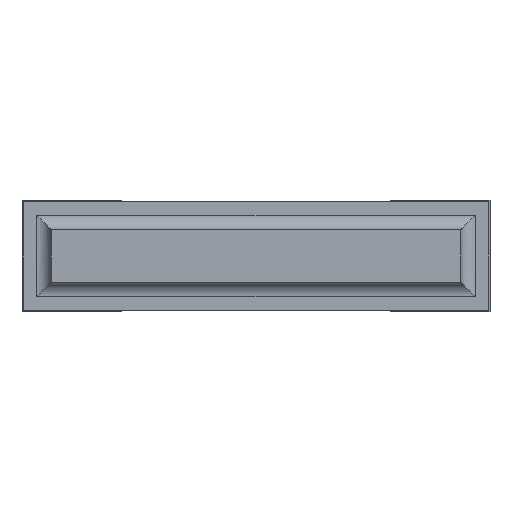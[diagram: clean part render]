
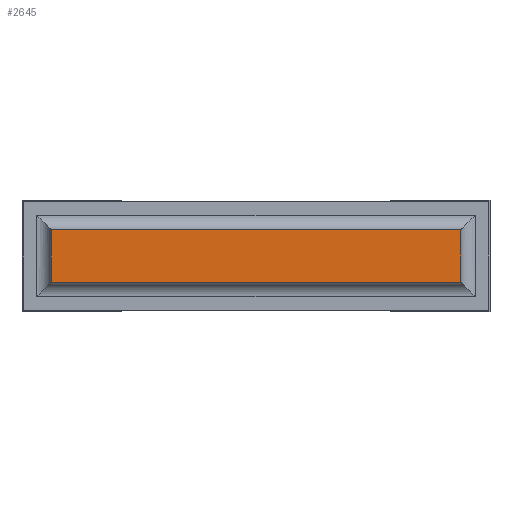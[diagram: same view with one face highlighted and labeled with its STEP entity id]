
A CAD part, front view. The second image highlights one B-rep face of the part: STEP entity #2645.
In plain terms, the highlighted planar face has unit normal (0, -1, 0).
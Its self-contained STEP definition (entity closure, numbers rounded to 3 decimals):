
#207=FACE_OUTER_BOUND('',#372,.T.);
#372=EDGE_LOOP('',(#2163,#2164,#2165,#2166));
#625=LINE('',#4094,#957);
#628=LINE('',#4104,#960);
#640=LINE('',#4131,#972);
#642=LINE('',#4135,#974);
#957=VECTOR('',#3357,10.);
#960=VECTOR('',#3368,10.);
#972=VECTOR('',#3392,10.);
#974=VECTOR('',#3398,10.);
#1233=VERTEX_POINT('',#4091);
#1234=VERTEX_POINT('',#4093);
#1237=VERTEX_POINT('',#4103);
#1246=VERTEX_POINT('',#4130);
#1545=EDGE_CURVE('',#1234,#1233,#625,.T.);
#1550=EDGE_CURVE('',#1237,#1233,#628,.T.);
#1564=EDGE_CURVE('',#1234,#1246,#640,.T.);
#1566=EDGE_CURVE('',#1246,#1237,#642,.T.);
#2163=ORIENTED_EDGE('',*,*,#1566,.F.);
#2164=ORIENTED_EDGE('',*,*,#1564,.F.);
#2165=ORIENTED_EDGE('',*,*,#1545,.T.);
#2166=ORIENTED_EDGE('',*,*,#1550,.F.);
#2491=PLANE('',#2859);
#2645=ADVANCED_FACE('',(#207),#2491,.T.);
#2859=AXIS2_PLACEMENT_3D('',#4136,#3399,#3400);
#3357=DIRECTION('',(0.,0.,-1.));
#3368=DIRECTION('',(-1.,0.,0.));
#3392=DIRECTION('',(1.,0.,0.));
#3398=DIRECTION('',(0.,0.,-1.));
#3399=DIRECTION('center_axis',(0.,-1.,0.));
#3400=DIRECTION('ref_axis',(0.,0.,-1.));
#4091=CARTESIAN_POINT('',(0.1,0.,0.1));
#4093=CARTESIAN_POINT('',(0.1,0.,0.28));
#4094=CARTESIAN_POINT('',(0.1,0.,0.28));
#4103=CARTESIAN_POINT('',(1.5,0.,0.1));
#4104=CARTESIAN_POINT('',(1.5,0.,0.1));
#4130=CARTESIAN_POINT('',(1.5,0.,0.28));
#4131=CARTESIAN_POINT('',(0.1,0.,0.28));
#4135=CARTESIAN_POINT('',(1.5,0.,0.28));
#4136=CARTESIAN_POINT('Origin',(1.5,0.,0.19));
